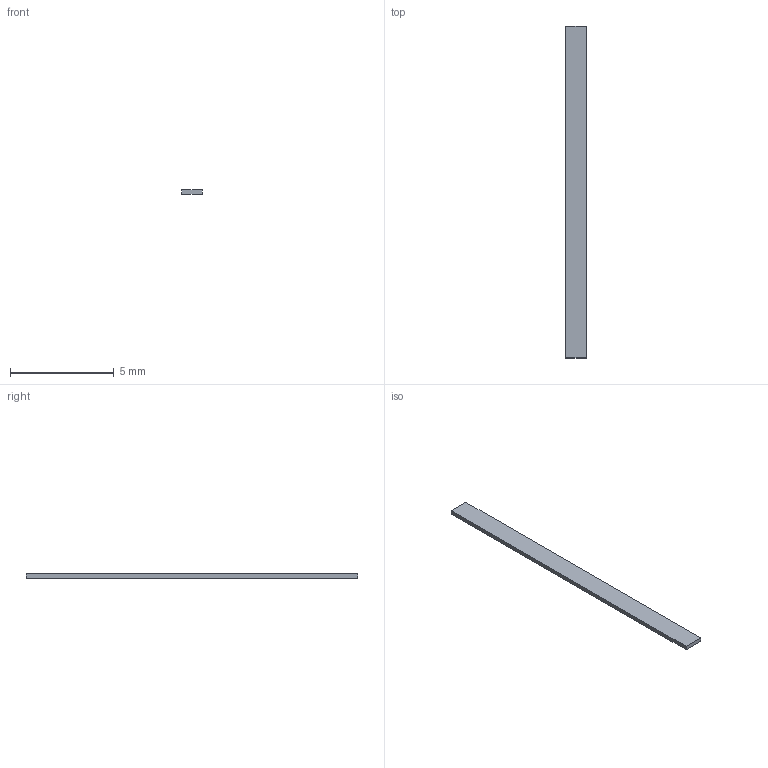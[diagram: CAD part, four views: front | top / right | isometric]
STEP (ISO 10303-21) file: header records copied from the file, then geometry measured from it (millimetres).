
FILE_DESCRIPTION(('Open CASCADE Model'),'2;1');
FILE_NAME('Open CASCADE Shape Model','2026-10-01T12:35:22',('Author'),( 'Open CASCADE'),'Open CASCADE STEP processor 7.8','Open CASCADE 7.8' ,'Unknown');
FILE_SCHEMA(('AUTOMOTIVE_DESIGN { 1 0 10303 214 1 1 1 1 }'));
Length unit declared in the file: millimetre
Products named in the file (2): H07_P07_Amplifier_snap_cap_pad_-1; H07_P07_Amplifier_snap_cap_pad_-1_solid
Assembly tree (1 placements, depth 2):
  H07_P07_Amplifier_snap_cap_pad_-1
    H07_P07_Amplifier_snap_cap_pad_-1_solid
Bounding box: 1 x 16 x 0.2 mm (x, y, z)
Volume: 3.2 mm3; surface area: 38.8 mm2
Topology: 1 solids, 1 shells, 6 faces, 12 edges, 8 vertices
Faces by surface type: plane 6
Entity records: 349 total; most frequent: CARTESIAN_POINT 52, DIRECTION 52, LINE 36, VECTOR 36, ORIENTED_EDGE 24, PCURVE 24, DEFINITIONAL_REPRESENTATION 24, EDGE_CURVE 12
